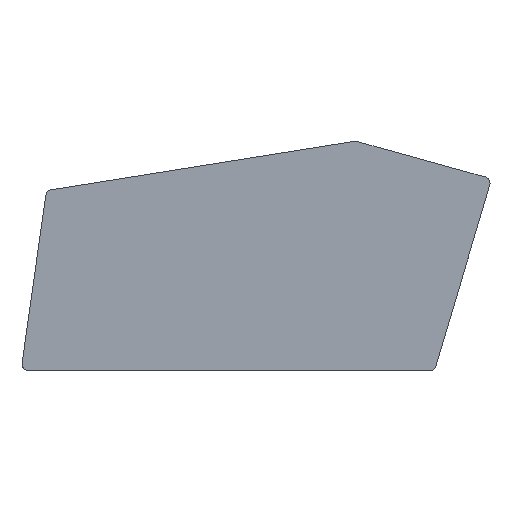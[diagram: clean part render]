
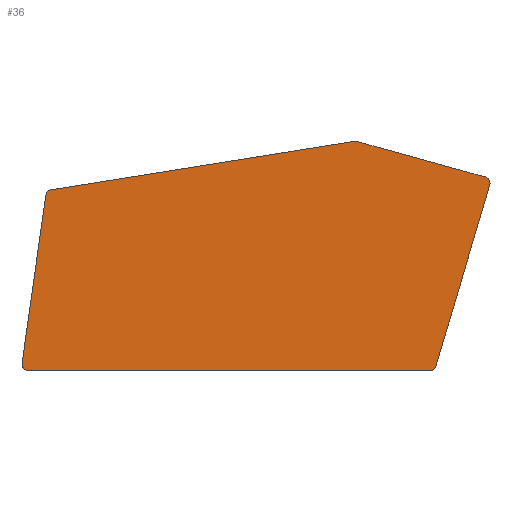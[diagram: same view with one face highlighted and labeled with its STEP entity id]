
A CAD part, top view. The second image highlights one B-rep face of the part: STEP entity #36.
In plain terms, the highlighted planar face has unit normal (0, 0, 1).
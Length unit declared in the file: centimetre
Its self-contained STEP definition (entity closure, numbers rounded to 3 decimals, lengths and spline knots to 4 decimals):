
#36=ADVANCED_FACE($,(#54),#223,.T.);
#54=FACE_OUTER_BOUND($,#72,.T.);
#72=EDGE_LOOP($,(#140,#141));
#140=ORIENTED_EDGE($,*,*,#178,.T.);
#141=ORIENTED_EDGE($,*,*,#181,.T.);
#178=EDGE_CURVE($,#203,#205,#255,.T.);
#181=EDGE_CURVE($,#205,#203,#257,.T.);
#203=VERTEX_POINT($,#815);
#205=VERTEX_POINT($,#817);
#223=PLANE($,#351);
#255=(
BOUNDED_CURVE()
B_SPLINE_CURVE(2,(#721,#722,#723,#724,#725,#726,#727,#728,#729,#730,#731,
#732,#733,#734,#735),.UNSPECIFIED.,.F.,.F.)
B_SPLINE_CURVE_WITH_KNOTS((3,2,2,2,2,2,2,3),(1764.5229,1790.1494,
2353.6382,2369.5389,2385.4397,2782.3814,2790.9521,
3708.7258),.UNSPECIFIED.)
CURVE()
GEOMETRIC_REPRESENTATION_ITEM()
RATIONAL_B_SPLINE_CURVE((1.,0.802,1.,1.,1.,0.922,
1.,0.922,1.,1.,1.,0.977,1.,1.,1.))
REPRESENTATION_ITEM($)
);
#257=(
BOUNDED_CURVE()
B_SPLINE_CURVE(2,(#749,#750,#751,#752,#753,#754,#755,#756,#757,#758,#759),
.UNSPECIFIED.,.F.,.F.)
B_SPLINE_CURVE_WITH_KNOTS((3,2,2,2,2,3),(3708.7258,3734.1749,
4240.4034,4257.5113,4274.6193,5473.2487),.UNSPECIFIED.)
CURVE()
GEOMETRIC_REPRESENTATION_ITEM()
RATIONAL_B_SPLINE_CURVE((1.,0.804,1.,1.,1.,0.91,
1.,0.91,1.,1.,1.))
REPRESENTATION_ITEM($)
);
#351=AXIS2_PLACEMENT_3D($,#783,#360,$);
#360=DIRECTION($,(0.,0.,1.));
#721=CARTESIAN_POINT($,(122.7497,0.6755,31.7));
#722=CARTESIAN_POINT($,(124.2409,0.6755,31.7));
#723=CARTESIAN_POINT($,(124.6665,2.1046,31.7));
#724=CARTESIAN_POINT($,(132.7087,29.1069,31.7));
#725=CARTESIAN_POINT($,(140.7509,56.1092,31.7));
#726=CARTESIAN_POINT($,(140.9906,56.914,31.7));
#727=CARTESIAN_POINT($,(140.5839,57.6487,31.7));
#728=CARTESIAN_POINT($,(140.1772,58.3834,31.7));
#729=CARTESIAN_POINT($,(139.3679,58.6075,31.7));
#730=CARTESIAN_POINT($,(120.2409,63.9049,31.7));
#731=CARTESIAN_POINT($,(101.1138,69.2024,31.7));
#732=CARTESIAN_POINT($,(100.6944,69.3185,31.7));
#733=CARTESIAN_POINT($,(100.2646,69.2499,31.7));
#734=CARTESIAN_POINT($,(54.95,62.014,31.7));
#735=CARTESIAN_POINT($,(9.6354,54.7781,31.7));
#749=CARTESIAN_POINT($,(9.6354,54.7781,31.7));
#750=CARTESIAN_POINT($,(8.1765,54.5451,31.7));
#751=CARTESIAN_POINT($,(7.9704,53.0822,31.7));
#752=CARTESIAN_POINT($,(4.4384,28.0184,31.7));
#753=CARTESIAN_POINT($,(0.9064,2.9546,31.7));
#754=CARTESIAN_POINT($,(0.7791,2.0519,31.7));
#755=CARTESIAN_POINT($,(1.3771,1.3637,31.7));
#756=CARTESIAN_POINT($,(1.9751,0.6755,31.7));
#757=CARTESIAN_POINT($,(2.8868,0.6755,31.7));
#758=CARTESIAN_POINT($,(62.8183,0.6755,31.7));
#759=CARTESIAN_POINT($,(122.7497,0.6755,31.7));
#783=CARTESIAN_POINT($,(0.7791,0.6755,31.7));
#815=CARTESIAN_POINT($,(122.7497,0.6755,31.7));
#817=CARTESIAN_POINT($,(9.6354,54.7781,31.7));
